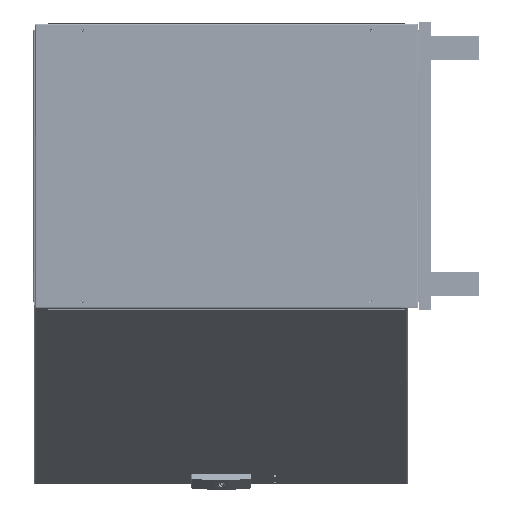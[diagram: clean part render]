
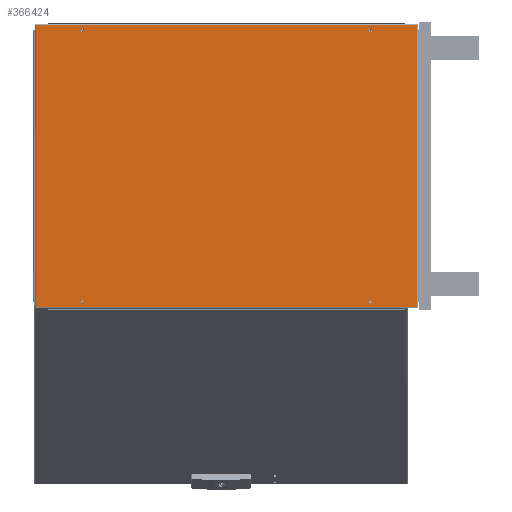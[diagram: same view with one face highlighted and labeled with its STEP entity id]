
A CAD part, left-side view. The second image highlights one B-rep face of the part: STEP entity #366424.
In plain terms, the highlighted planar face has unit normal (-1, 0, 0).
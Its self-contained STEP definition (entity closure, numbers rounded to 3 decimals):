
#8605 = VECTOR ( 'NONE', #48979, 1000. ) ;
#12109 = DIRECTION ( 'NONE',  ( 0., 0., 1. ) ) ;
#13702 = CARTESIAN_POINT ( 'NONE',  ( -301.791, 300., 285.75 ) ) ;
#17676 = VECTOR ( 'NONE', #60737, 1000. ) ;
#19380 = VERTEX_POINT ( 'NONE', #83892 ) ;
#29831 = VERTEX_POINT ( 'NONE', #163865 ) ;
#32801 = ORIENTED_EDGE ( 'NONE', *, *, #105728, .T. ) ;
#39975 = ORIENTED_EDGE ( 'NONE', *, *, #98417, .F. ) ;
#41083 = VERTEX_POINT ( 'NONE', #198246 ) ;
#45393 = DIRECTION ( 'NONE',  ( -1., 0., 0. ) ) ;
#47829 = DIRECTION ( 'NONE',  ( 0., 1., 0. ) ) ;
#48979 = DIRECTION ( 'NONE',  ( 0., -1., 0. ) ) ;
#52454 = VERTEX_POINT ( 'NONE', #238217 ) ;
#54644 = LINE ( 'NONE', #374711, #17676 ) ;
#60737 = DIRECTION ( 'NONE',  ( 0., 0., 1. ) ) ;
#60803 = DIRECTION ( 'NONE',  ( -1., 0., 0. ) ) ;
#62095 = CARTESIAN_POINT ( 'NONE',  ( -301.791, 0., 0. ) ) ;
#65335 = CIRCLE ( 'NONE', #164377, 3.5 ) ;
#71166 = EDGE_CURVE ( 'NONE', #346585, #29831, #365211, .T. ) ;
#83892 = CARTESIAN_POINT ( 'NONE',  ( -301.791, -395.6, -293.1 ) ) ;
#83899 = VERTEX_POINT ( 'NONE', #117618 ) ;
#84013 = CARTESIAN_POINT ( 'NONE',  ( -301.791, 396.959, -293.1 ) ) ;
#97161 = PLANE ( 'NONE',  #292392 ) ;
#98417 = EDGE_CURVE ( 'NONE', #164012, #83899, #358698, .T. ) ;
#102156 = ORIENTED_EDGE ( 'NONE', *, *, #205956, .T. ) ;
#105090 = CARTESIAN_POINT ( 'NONE',  ( -301.791, -300., 282.25 ) ) ;
#105728 = EDGE_CURVE ( 'NONE', #308499, #381519, #392783, .T. ) ;
#106322 = VERTEX_POINT ( 'NONE', #379993 ) ;
#107794 = VERTEX_POINT ( 'NONE', #13702 ) ;
#110253 = FACE_BOUND ( 'NONE', #307426, .T. ) ;
#110350 = CIRCLE ( 'NONE', #341330, 3.5 ) ;
#112729 = CIRCLE ( 'NONE', #231308, 3.5 ) ;
#116528 = DIRECTION ( 'NONE',  ( -1., 0., 0. ) ) ;
#117618 = CARTESIAN_POINT ( 'NONE',  ( -301.791, -300., -285.75 ) ) ;
#122442 = ORIENTED_EDGE ( 'NONE', *, *, #155355, .F. ) ;
#130468 = EDGE_CURVE ( 'NONE', #52454, #107794, #324409, .T. ) ;
#143070 = EDGE_CURVE ( 'NONE', #307474, #106322, #112729, .T. ) ;
#146338 = EDGE_CURVE ( 'NONE', #83899, #164012, #154025, .T. ) ;
#147148 = EDGE_CURVE ( 'NONE', #41083, #19380, #398016, .T. ) ;
#147480 = EDGE_LOOP ( 'NONE', ( #122442, #219698 ) ) ;
#150232 = ORIENTED_EDGE ( 'NONE', *, *, #369766, .T. ) ;
#152728 = ORIENTED_EDGE ( 'NONE', *, *, #376280, .F. ) ;
#154025 = CIRCLE ( 'NONE', #285895, 3.5 ) ;
#155062 = FACE_BOUND ( 'NONE', #147480, .T. ) ;
#155355 = EDGE_CURVE ( 'NONE', #29831, #346585, #110350, .T. ) ;
#155929 = CARTESIAN_POINT ( 'NONE',  ( -301.791, 395.6, 293.1 ) ) ;
#157890 = AXIS2_PLACEMENT_3D ( 'NONE', #105090, #200119, #12109 ) ;
#163201 = DIRECTION ( 'NONE',  ( -1., 0., 0. ) ) ;
#163865 = CARTESIAN_POINT ( 'NONE',  ( -301.791, 300., -278.75 ) ) ;
#164012 = VERTEX_POINT ( 'NONE', #305715 ) ;
#164377 = AXIS2_PLACEMENT_3D ( 'NONE', #176443, #116528, #300482 ) ;
#171864 = ORIENTED_EDGE ( 'NONE', *, *, #143070, .F. ) ;
#176443 = CARTESIAN_POINT ( 'NONE',  ( -301.791, 300., 282.25 ) ) ;
#184648 = DIRECTION ( 'NONE',  ( 0., 0., 1. ) ) ;
#193434 = EDGE_LOOP ( 'NONE', ( #152728, #293868 ) ) ;
#198246 = CARTESIAN_POINT ( 'NONE',  ( -301.791, 395.6, -293.1 ) ) ;
#198674 = ORIENTED_EDGE ( 'NONE', *, *, #147148, .T. ) ;
#200119 = DIRECTION ( 'NONE',  ( -1., 0., 0. ) ) ;
#205956 = EDGE_CURVE ( 'NONE', #19380, #308499, #54644, .T. ) ;
#208894 = CARTESIAN_POINT ( 'NONE',  ( -301.791, 395.6, 294.459 ) ) ;
#215624 = DIRECTION ( 'NONE',  ( -1., 0., 0. ) ) ;
#219698 = ORIENTED_EDGE ( 'NONE', *, *, #71166, .F. ) ;
#222223 = EDGE_LOOP ( 'NONE', ( #198674, #102156, #32801, #150232 ) ) ;
#222434 = CARTESIAN_POINT ( 'NONE',  ( -301.791, -300., 278.75 ) ) ;
#231308 = AXIS2_PLACEMENT_3D ( 'NONE', #380902, #60803, #372758 ) ;
#238217 = CARTESIAN_POINT ( 'NONE',  ( -301.791, 300., 278.75 ) ) ;
#247845 = VECTOR ( 'NONE', #374033, 1000. ) ;
#258339 = AXIS2_PLACEMENT_3D ( 'NONE', #369964, #275010, #398927 ) ;
#262702 = EDGE_LOOP ( 'NONE', ( #354412, #171864 ) ) ;
#267303 = FACE_BOUND ( 'NONE', #193434, .T. ) ;
#268224 = ORIENTED_EDGE ( 'NONE', *, *, #146338, .F. ) ;
#275010 = DIRECTION ( 'NONE',  ( -1., 0., 0. ) ) ;
#278353 = CARTESIAN_POINT ( 'NONE',  ( -301.791, -300., -282.25 ) ) ;
#285895 = AXIS2_PLACEMENT_3D ( 'NONE', #322354, #45393, #359379 ) ;
#286208 = AXIS2_PLACEMENT_3D ( 'NONE', #278353, #311391, #406322 ) ;
#287232 = FACE_OUTER_BOUND ( 'NONE', #222223, .T. ) ;
#292037 = EDGE_CURVE ( 'NONE', #106322, #307474, #296512, .T. ) ;
#292392 = AXIS2_PLACEMENT_3D ( 'NONE', #62095, #163201, #349177 ) ;
#293868 = ORIENTED_EDGE ( 'NONE', *, *, #130468, .F. ) ;
#296512 = CIRCLE ( 'NONE', #157890, 3.5 ) ;
#298204 = CARTESIAN_POINT ( 'NONE',  ( -301.791, 300., -282.25 ) ) ;
#299878 = CARTESIAN_POINT ( 'NONE',  ( -301.791, -396.959, 293.1 ) ) ;
#300238 = DIRECTION ( 'NONE',  ( -1., 0., 0. ) ) ;
#300482 = DIRECTION ( 'NONE',  ( 0., 0., -1. ) ) ;
#305715 = CARTESIAN_POINT ( 'NONE',  ( -301.791, -300., -278.75 ) ) ;
#307426 = EDGE_LOOP ( 'NONE', ( #39975, #268224 ) ) ;
#307474 = VERTEX_POINT ( 'NONE', #222434 ) ;
#308499 = VERTEX_POINT ( 'NONE', #378438 ) ;
#311391 = DIRECTION ( 'NONE',  ( -1., 0., 0. ) ) ;
#313068 = CARTESIAN_POINT ( 'NONE',  ( -301.791, 300., -285.75 ) ) ;
#318846 = CARTESIAN_POINT ( 'NONE',  ( -301.791, 300., -282.25 ) ) ;
#322354 = CARTESIAN_POINT ( 'NONE',  ( -301.791, -300., -282.25 ) ) ;
#324409 = CIRCLE ( 'NONE', #258339, 3.5 ) ;
#341330 = AXIS2_PLACEMENT_3D ( 'NONE', #318846, #215624, #184648 ) ;
#346585 = VERTEX_POINT ( 'NONE', #313068 ) ;
#349177 = DIRECTION ( 'NONE',  ( 0., 0., 1. ) ) ;
#354412 = ORIENTED_EDGE ( 'NONE', *, *, #292037, .F. ) ;
#358698 = CIRCLE ( 'NONE', #286208, 3.5 ) ;
#359379 = DIRECTION ( 'NONE',  ( 0., 0., -1. ) ) ;
#365211 = CIRCLE ( 'NONE', #391739, 3.5 ) ;
#366424 = ADVANCED_FACE ( 'NONE', ( #267303, #393247, #110253, #155062, #287232 ), #97161, .T. ) ;
#369766 = EDGE_CURVE ( 'NONE', #381519, #41083, #405006, .T. ) ;
#369964 = CARTESIAN_POINT ( 'NONE',  ( -301.791, 300., 282.25 ) ) ;
#372758 = DIRECTION ( 'NONE',  ( 0., 0., 1. ) ) ;
#374033 = DIRECTION ( 'NONE',  ( 0., 0., -1. ) ) ;
#374711 = CARTESIAN_POINT ( 'NONE',  ( -301.791, -395.6, -294.459 ) ) ;
#376280 = EDGE_CURVE ( 'NONE', #107794, #52454, #65335, .T. ) ;
#378438 = CARTESIAN_POINT ( 'NONE',  ( -301.791, -395.6, 293.1 ) ) ;
#379993 = CARTESIAN_POINT ( 'NONE',  ( -301.791, -300., 285.75 ) ) ;
#380902 = CARTESIAN_POINT ( 'NONE',  ( -301.791, -300., 282.25 ) ) ;
#381519 = VERTEX_POINT ( 'NONE', #155929 ) ;
#388086 = VECTOR ( 'NONE', #47829, 1000. ) ;
#391128 = DIRECTION ( 'NONE',  ( 0., 0., 1. ) ) ;
#391739 = AXIS2_PLACEMENT_3D ( 'NONE', #298204, #300238, #391128 ) ;
#392783 = LINE ( 'NONE', #299878, #388086 ) ;
#393247 = FACE_BOUND ( 'NONE', #262702, .T. ) ;
#398016 = LINE ( 'NONE', #84013, #8605 ) ;
#398927 = DIRECTION ( 'NONE',  ( 0., 0., -1. ) ) ;
#405006 = LINE ( 'NONE', #208894, #247845 ) ;
#406322 = DIRECTION ( 'NONE',  ( 0., 0., -1. ) ) ;
